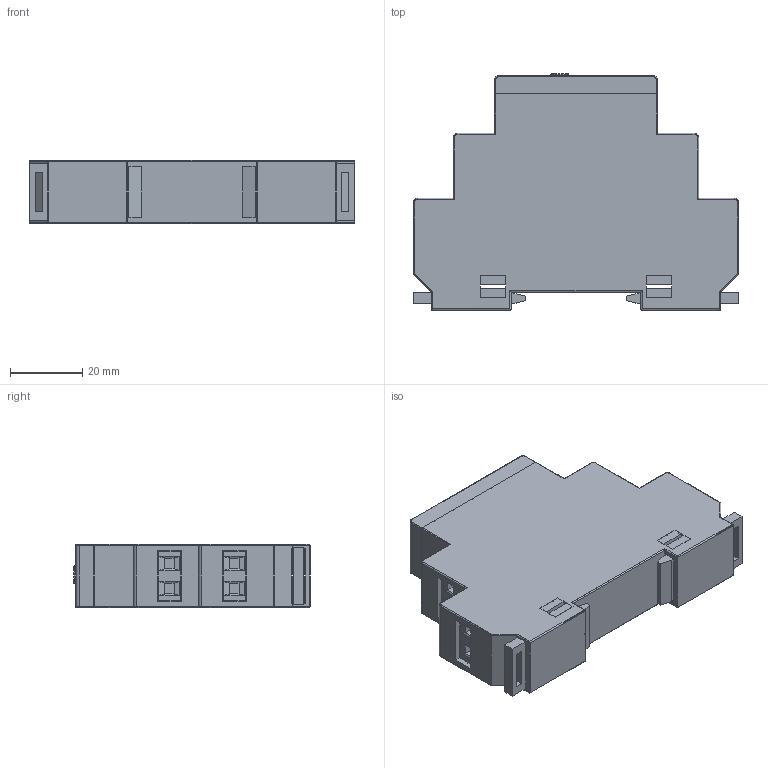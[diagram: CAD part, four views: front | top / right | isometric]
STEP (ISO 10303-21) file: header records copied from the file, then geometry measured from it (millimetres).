
FILE_DESCRIPTION (( 'STEP AP214' ), '1' );
FILE_NAME ('MMR-T1-001-A230.step', '2014-09-04T08:14:27', ( '' ), ( '' ), 'SwSTEP 2.0', 'SolidWorks 2011', '' );
FILE_SCHEMA (( 'AUTOMOTIVE_DESIGN' ));
Length unit declared in the file: millimetre
Products named in the file (1): MMR-T1-001-A230
Bounding box: 90 x 65.5 x 17.6 mm (x, y, z)
Volume: 17082.4 mm3; surface area: 44212.2 mm2
Topology: 8 solids, 9 shells, 843 faces, 2283 edges, 1452 vertices
Faces by surface type: plane 687, cylinder 110, torus 38, bspline 8
Entity records: 35897 total; most frequent: CARTESIAN_POINT 5183, ORIENTED_EDGE 4550, DIRECTION 4251, EDGE_CURVE 2275, LINE 1835, VECTOR 1835, VERTEX_POINT 1452, AXIS2_PLACEMENT_3D 1208
